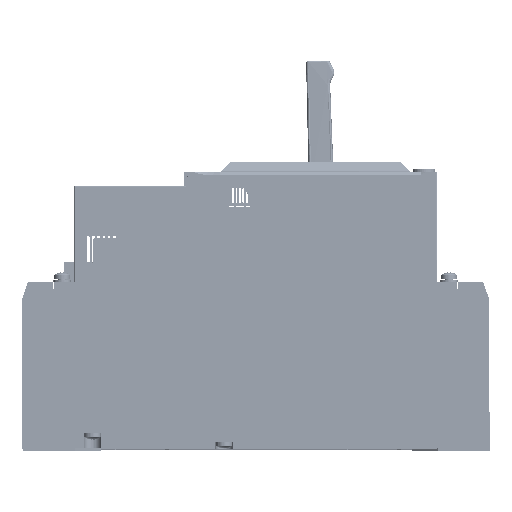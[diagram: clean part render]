
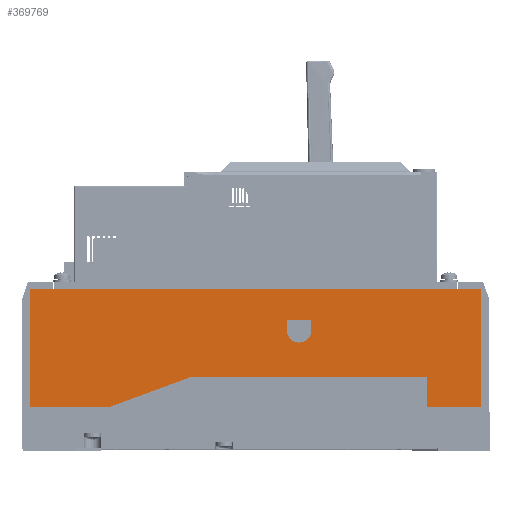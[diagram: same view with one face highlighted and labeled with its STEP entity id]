
A CAD part, top view. The second image highlights one B-rep face of the part: STEP entity #369769.
In plain terms, the highlighted planar face has unit normal (0, 0, 1).
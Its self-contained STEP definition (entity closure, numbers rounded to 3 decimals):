
#681 = FACE_BOUND ( 'NONE', #834089, .T. ) ;
#1597 = ORIENTED_EDGE ( 'NONE', *, *, #957002, .T. ) ;
#11846 = VERTEX_POINT ( 'NONE', #199879 ) ;
#19056 = VECTOR ( 'NONE', #948262, 1000. ) ;
#21798 = VERTEX_POINT ( 'NONE', #896037 ) ;
#35516 = LINE ( 'NONE', #935429, #581802 ) ;
#36494 = CARTESIAN_POINT ( 'NONE',  ( 18., 68., 105. ) ) ;
#38674 = DIRECTION ( 'NONE',  ( 1., 0., 0. ) ) ;
#39802 = ORIENTED_EDGE ( 'NONE', *, *, #589449, .T. ) ;
#49822 = CARTESIAN_POINT ( 'NONE',  ( 25., 68., 105. ) ) ;
#56087 = VERTEX_POINT ( 'NONE', #355027 ) ;
#66201 = ORIENTED_EDGE ( 'NONE', *, *, #848483, .T. ) ;
#92699 = CARTESIAN_POINT ( 'NONE',  ( -129.4, 24., 105. ) ) ;
#103616 = ORIENTED_EDGE ( 'NONE', *, *, #110174, .T. ) ;
#110174 = EDGE_CURVE ( 'NONE', #1053420, #413349, #926364, .T. ) ;
#122192 = CARTESIAN_POINT ( 'NONE',  ( 134., 24., 105. ) ) ;
#127542 = DIRECTION ( 'NONE',  ( 1., 0., 0. ) ) ;
#132201 = VERTEX_POINT ( 'NONE', #867413 ) ;
#133180 = EDGE_CURVE ( 'NONE', #1007635, #977370, #279596, .T. ) ;
#139226 = CARTESIAN_POINT ( 'NONE',  ( 32., 74., 105. ) ) ;
#146557 = DIRECTION ( 'NONE',  ( -1., 0., 0. ) ) ;
#179548 = VERTEX_POINT ( 'NONE', #92699 ) ;
#182499 = FACE_OUTER_BOUND ( 'NONE', #306365, .T. ) ;
#187150 = CARTESIAN_POINT ( 'NONE',  ( 98.5, 24., 105. ) ) ;
#199879 = CARTESIAN_POINT ( 'NONE',  ( -129.4, 92., 105. ) ) ;
#221841 = CARTESIAN_POINT ( 'NONE',  ( -134., 92., 105. ) ) ;
#241907 = CARTESIAN_POINT ( 'NONE',  ( -134., 24., 105. ) ) ;
#255356 = VECTOR ( 'NONE', #146557, 1000. ) ;
#262147 = CARTESIAN_POINT ( 'NONE',  ( 25., 61., 105. ) ) ;
#264225 = CARTESIAN_POINT ( 'NONE',  ( 129.4, 92., 105. ) ) ;
#272021 = VECTOR ( 'NONE', #630326, 1000. ) ;
#279596 = LINE ( 'NONE', #365247, #1054358 ) ;
#281242 = EDGE_CURVE ( 'NONE', #641547, #11846, #553625, .T. ) ;
#297188 = ORIENTED_EDGE ( 'NONE', *, *, #281242, .T. ) ;
#303623 = LINE ( 'NONE', #533927, #272021 ) ;
#304599 = LINE ( 'NONE', #856489, #1001071 ) ;
#306365 = EDGE_LOOP ( 'NONE', ( #1597, #66201, #103616, #1038504, #694830, #297188, #39802, #437072 ) ) ;
#343384 = DIRECTION ( 'NONE',  ( 0., 0., -1. ) ) ;
#345250 = DIRECTION ( 'NONE',  ( 0., -1., 0. ) ) ;
#352874 = LINE ( 'NONE', #122192, #560616 ) ;
#355027 = CARTESIAN_POINT ( 'NONE',  ( -36.5, 41.5, 105. ) ) ;
#361091 = EDGE_CURVE ( 'NONE', #641547, #132201, #35516, .T. ) ;
#362365 = DIRECTION ( 'NONE',  ( 0., -1., 0. ) ) ;
#365247 = CARTESIAN_POINT ( 'NONE',  ( 18., 74., 105. ) ) ;
#366385 = LINE ( 'NONE', #430707, #657063 ) ;
#369769 = ADVANCED_FACE ( 'NONE', ( #681, #182499 ), #739993, .F. ) ;
#380395 = CIRCLE ( 'NONE', #654333, 7. ) ;
#406328 = ORIENTED_EDGE ( 'NONE', *, *, #736332, .F. ) ;
#413349 = VERTEX_POINT ( 'NONE', #921761 ) ;
#422404 = DIRECTION ( 'NONE',  ( 0., -1., 0. ) ) ;
#422527 = ORIENTED_EDGE ( 'NONE', *, *, #437415, .F. ) ;
#430707 = CARTESIAN_POINT ( 'NONE',  ( -129.4, 118., 105. ) ) ;
#432102 = CIRCLE ( 'NONE', #568979, 7. ) ;
#437072 = ORIENTED_EDGE ( 'NONE', *, *, #590124, .T. ) ;
#437415 = EDGE_CURVE ( 'NONE', #1055644, #21798, #380395, .T. ) ;
#451092 = LINE ( 'NONE', #777804, #639070 ) ;
#453322 = ORIENTED_EDGE ( 'NONE', *, *, #466418, .F. ) ;
#466418 = EDGE_CURVE ( 'NONE', #1043580, #1055644, #432102, .T. ) ;
#476068 = DIRECTION ( 'NONE',  ( 0., -1., 0. ) ) ;
#491858 = CARTESIAN_POINT ( 'NONE',  ( 25., 68., 105. ) ) ;
#533927 = CARTESIAN_POINT ( 'NONE',  ( -84., 24., 105. ) ) ;
#536322 = DIRECTION ( 'NONE',  ( -1., 0., 0. ) ) ;
#546050 = CARTESIAN_POINT ( 'NONE',  ( 18., 68., 105. ) ) ;
#553625 = LINE ( 'NONE', #221841, #255356 ) ;
#560616 = VECTOR ( 'NONE', #127542, 1000. ) ;
#563524 = DIRECTION ( 'NONE',  ( 0., -1., 0. ) ) ;
#568469 = DIRECTION ( 'NONE',  ( 0., 1., 0. ) ) ;
#568979 = AXIS2_PLACEMENT_3D ( 'NONE', #49822, #794110, #563524 ) ;
#581802 = VECTOR ( 'NONE', #362365, 1000. ) ;
#589449 = EDGE_CURVE ( 'NONE', #11846, #179548, #366385, .T. ) ;
#590124 = EDGE_CURVE ( 'NONE', #179548, #990719, #304599, .T. ) ;
#630326 = DIRECTION ( 'NONE',  ( 0.938, 0.346, 0. ) ) ;
#639070 = VECTOR ( 'NONE', #38674, 1000. ) ;
#641547 = VERTEX_POINT ( 'NONE', #264225 ) ;
#644874 = CARTESIAN_POINT ( 'NONE',  ( -84., 24., 105. ) ) ;
#654333 = AXIS2_PLACEMENT_3D ( 'NONE', #491858, #1054661, #476068 ) ;
#657063 = VECTOR ( 'NONE', #345250, 1000. ) ;
#665909 = CARTESIAN_POINT ( 'NONE',  ( 98.5, 41.5, 105. ) ) ;
#667386 = VECTOR ( 'NONE', #685511, 1000. ) ;
#672001 = AXIS2_PLACEMENT_3D ( 'NONE', #241907, #343384, #568469 ) ;
#685511 = DIRECTION ( 'NONE',  ( 0., -1., 0. ) ) ;
#694830 = ORIENTED_EDGE ( 'NONE', *, *, #361091, .F. ) ;
#736332 = EDGE_CURVE ( 'NONE', #977370, #1043580, #845441, .T. ) ;
#739993 = PLANE ( 'NONE',  #672001 ) ;
#764698 = EDGE_CURVE ( 'NONE', #413349, #132201, #352874, .T. ) ;
#771408 = ORIENTED_EDGE ( 'NONE', *, *, #870658, .F. ) ;
#771717 = ORIENTED_EDGE ( 'NONE', *, *, #133180, .F. ) ;
#777804 = CARTESIAN_POINT ( 'NONE',  ( 98.5, 41.5, 105. ) ) ;
#786597 = DIRECTION ( 'NONE',  ( 1., 0., 0. ) ) ;
#794110 = DIRECTION ( 'NONE',  ( 0., 0., 1. ) ) ;
#797921 = LINE ( 'NONE', #139226, #19056 ) ;
#834089 = EDGE_LOOP ( 'NONE', ( #771408, #422527, #453322, #406328, #771717 ) ) ;
#845441 = LINE ( 'NONE', #36494, #956566 ) ;
#848483 = EDGE_CURVE ( 'NONE', #56087, #1053420, #451092, .T. ) ;
#856489 = CARTESIAN_POINT ( 'NONE',  ( -84., 24., 105. ) ) ;
#867413 = CARTESIAN_POINT ( 'NONE',  ( 129.4, 24., 105. ) ) ;
#870658 = EDGE_CURVE ( 'NONE', #21798, #1007635, #797921, .T. ) ;
#896037 = CARTESIAN_POINT ( 'NONE',  ( 32., 68., 105. ) ) ;
#921761 = CARTESIAN_POINT ( 'NONE',  ( 98.5, 24., 105. ) ) ;
#926364 = LINE ( 'NONE', #187150, #667386 ) ;
#935429 = CARTESIAN_POINT ( 'NONE',  ( 129.4, 118., 105. ) ) ;
#948262 = DIRECTION ( 'NONE',  ( 0., 1., 0. ) ) ;
#956566 = VECTOR ( 'NONE', #422404, 1000. ) ;
#957002 = EDGE_CURVE ( 'NONE', #990719, #56087, #303623, .T. ) ;
#977370 = VERTEX_POINT ( 'NONE', #988843 ) ;
#988843 = CARTESIAN_POINT ( 'NONE',  ( 18., 74., 105. ) ) ;
#990719 = VERTEX_POINT ( 'NONE', #644874 ) ;
#1001071 = VECTOR ( 'NONE', #786597, 1000. ) ;
#1007635 = VERTEX_POINT ( 'NONE', #1011979 ) ;
#1011979 = CARTESIAN_POINT ( 'NONE',  ( 32., 74., 105. ) ) ;
#1038504 = ORIENTED_EDGE ( 'NONE', *, *, #764698, .T. ) ;
#1043580 = VERTEX_POINT ( 'NONE', #546050 ) ;
#1053420 = VERTEX_POINT ( 'NONE', #665909 ) ;
#1054358 = VECTOR ( 'NONE', #536322, 1000. ) ;
#1054661 = DIRECTION ( 'NONE',  ( 0., 0., 1. ) ) ;
#1055644 = VERTEX_POINT ( 'NONE', #262147 ) ;
